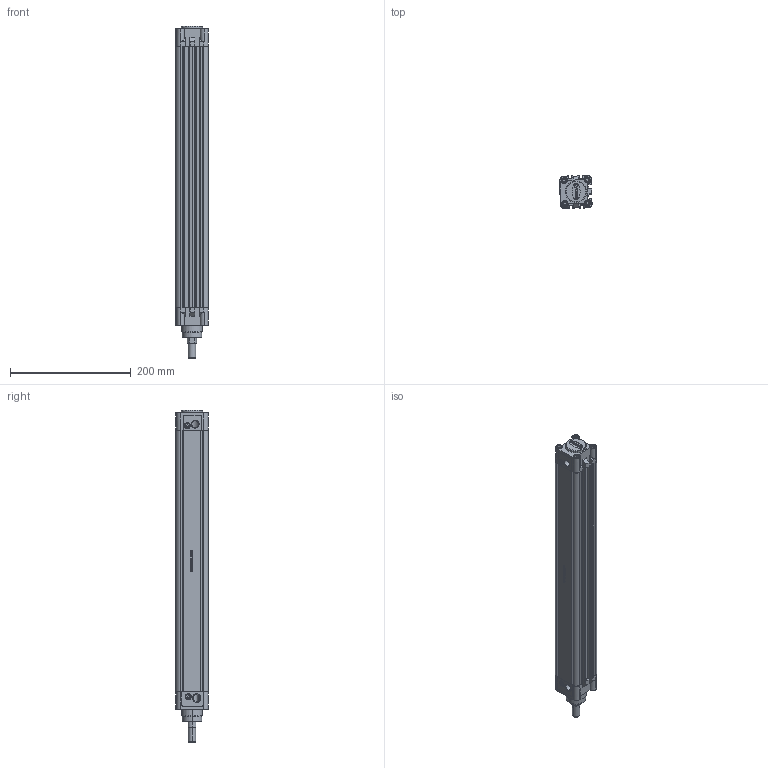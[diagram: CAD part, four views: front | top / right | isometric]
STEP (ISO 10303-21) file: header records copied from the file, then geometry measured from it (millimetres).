
FILE_DESCRIPTION (( 'STEP AP214' ), '1' );
FILE_NAME ('RIC_40_400_WEB.STEP', '2021-01-10T10:52:23', ( '' ), ( '' ), 'SwSTEP 2.0', 'SolidWorks 2021', '' );
FILE_SCHEMA (( 'AUTOMOTIVE_DESIGN' ));
Length unit declared in the file: millimetre
Products named in the file (8): m6kapakcivatasi; ric40arkakapak; RIC_40_400_WEB; 16_K_MIL_WEB; RIC_40_BORU_WEB_RIC 40-250; ric40bogazkecesi; yastýklama civatasý; ric40onkapak
Assembly tree (15 placements, depth 2):
  RIC_40_400_WEB
    ric40arkakapak
    ric40onkapak
    RIC_40_BORU_WEB_RIC 40-250
    ric40bogazkecesi
    yastýklama civatasý  x2
    m6kapakcivatasi  x8
    16_K_MIL_WEB
Bounding box: 54.22 x 54.22 x 549.5 mm (x, y, z)
Volume: 572996.4 mm3; surface area: 273072.8 mm2
Topology: 22 solids, 22 shells, 1035 faces, 2485 edges, 1585 vertices
Faces by surface type: plane 553, cylinder 227, cone 131, bspline 98, torus 26
Entity records: 31879 total; most frequent: CARTESIAN_POINT 10352, ORIENTED_EDGE 3982, DIRECTION 3656, EDGE_CURVE 1991, VERTEX_POINT 1289, LINE 1264, VECTOR 1264, AXIS2_PLACEMENT_3D 1196
